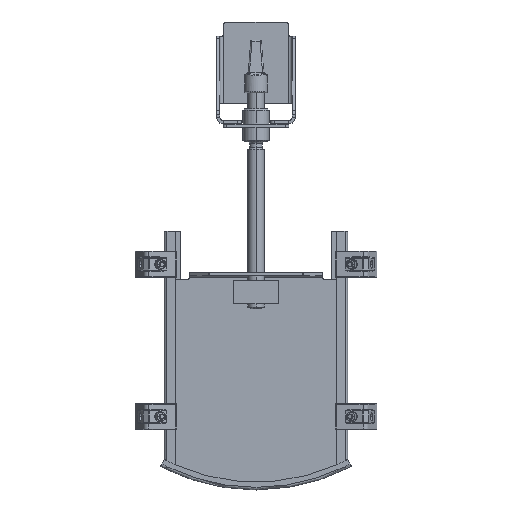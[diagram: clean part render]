
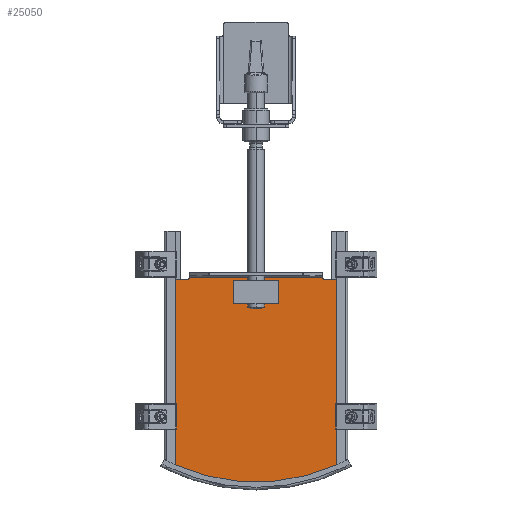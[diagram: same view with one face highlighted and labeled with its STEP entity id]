
A CAD part, top view. The second image highlights one B-rep face of the part: STEP entity #25050.
In plain terms, the highlighted planar face has unit normal (0, 0, 1).
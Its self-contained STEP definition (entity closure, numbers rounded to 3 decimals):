
#514 = LINE ( 'NONE', #22158, #922 ) ;
#640 = ORIENTED_EDGE ( 'NONE', *, *, #16587, .F. ) ;
#922 = VECTOR ( 'NONE', #33166, 1000. ) ;
#925 = CARTESIAN_POINT ( 'NONE',  ( -34., 307.5, 33. ) ) ;
#1392 = ORIENTED_EDGE ( 'NONE', *, *, #16591, .F. ) ;
#2145 = DIRECTION ( 'NONE',  ( 0., 1., 0. ) ) ;
#2159 = EDGE_CURVE ( 'NONE', #19831, #8006, #9249, .T. ) ;
#2605 = VERTEX_POINT ( 'NONE', #6995 ) ;
#3457 = LINE ( 'NONE', #20177, #16869 ) ;
#3532 = CARTESIAN_POINT ( 'NONE',  ( 122.995, 310., 33. ) ) ;
#3737 = CARTESIAN_POINT ( 'NONE',  ( 104., 310., 33. ) ) ;
#3943 = ORIENTED_EDGE ( 'NONE', *, *, #29161, .T. ) ;
#4023 = DIRECTION ( 'NONE',  ( 1., 0., 0. ) ) ;
#4092 = LINE ( 'NONE', #20980, #21663 ) ;
#4554 = VERTEX_POINT ( 'NONE', #21479 ) ;
#4582 = DIRECTION ( 'NONE',  ( 1., 0., 0. ) ) ;
#5391 = CARTESIAN_POINT ( 'NONE',  ( -122.995, 310., 33. ) ) ;
#5437 = CARTESIAN_POINT ( 'NONE',  ( 34., 307.5, 33. ) ) ;
#5519 = EDGE_CURVE ( 'NONE', #18808, #2605, #26608, .T. ) ;
#5643 = VERTEX_POINT ( 'NONE', #6845 ) ;
#5727 = VECTOR ( 'NONE', #23132, 1000. ) ;
#5894 = ORIENTED_EDGE ( 'NONE', *, *, #25307, .F. ) ;
#6059 = VECTOR ( 'NONE', #17815, 1000. ) ;
#6845 = CARTESIAN_POINT ( 'NONE',  ( -104., 310., 33. ) ) ;
#6995 = CARTESIAN_POINT ( 'NONE',  ( 102., 312., 33. ) ) ;
#7099 = AXIS2_PLACEMENT_3D ( 'NONE', #12503, #9800, #4582 ) ;
#7124 = ORIENTED_EDGE ( 'NONE', *, *, #31274, .T. ) ;
#8006 = VERTEX_POINT ( 'NONE', #32940 ) ;
#8361 = EDGE_CURVE ( 'NONE', #31074, #35464, #17823, .T. ) ;
#8366 = LINE ( 'NONE', #13765, #13551 ) ;
#8933 = ORIENTED_EDGE ( 'NONE', *, *, #2159, .F. ) ;
#9249 = LINE ( 'NONE', #30896, #5727 ) ;
#9800 = DIRECTION ( 'NONE',  ( 0., 0., -1. ) ) ;
#10900 = EDGE_CURVE ( 'NONE', #8006, #26299, #3457, .T. ) ;
#12503 = CARTESIAN_POINT ( 'NONE',  ( 104., 312., 33. ) ) ;
#12617 = AXIS2_PLACEMENT_3D ( 'NONE', #20361, #30846, #28292 ) ;
#13551 = VECTOR ( 'NONE', #24574, 1000. ) ;
#13567 = CARTESIAN_POINT ( 'NONE',  ( -102., 312., 33. ) ) ;
#13765 = CARTESIAN_POINT ( 'NONE',  ( -123.172, 310., 33. ) ) ;
#13792 = DIRECTION ( 'NONE',  ( 1., 0., 0. ) ) ;
#15364 = ORIENTED_EDGE ( 'NONE', *, *, #8361, .T. ) ;
#15622 = EDGE_CURVE ( 'NONE', #26299, #22739, #30099, .T. ) ;
#15759 = VECTOR ( 'NONE', #2145, 1000. ) ;
#15888 = CIRCLE ( 'NONE', #21038, 2. ) ;
#16587 = EDGE_CURVE ( 'NONE', #29601, #4554, #23453, .T. ) ;
#16591 = EDGE_CURVE ( 'NONE', #22739, #19831, #17311, .T. ) ;
#16742 = ORIENTED_EDGE ( 'NONE', *, *, #15622, .F. ) ;
#16869 = VECTOR ( 'NONE', #20009, 1000. ) ;
#17311 = LINE ( 'NONE', #925, #22199 ) ;
#17557 = VERTEX_POINT ( 'NONE', #13567 ) ;
#17736 = EDGE_CURVE ( 'NONE', #17557, #2605, #514, .T. ) ;
#17815 = DIRECTION ( 'NONE',  ( 0., -1., 0. ) ) ;
#17823 = LINE ( 'NONE', #23797, #24565 ) ;
#18191 = EDGE_LOOP ( 'NONE', ( #8933, #1392, #16742, #20392 ) ) ;
#18808 = VERTEX_POINT ( 'NONE', #3737 ) ;
#18897 = CIRCLE ( 'NONE', #12617, 300. ) ;
#19574 = CARTESIAN_POINT ( 'NONE',  ( -34., 307.5, 33. ) ) ;
#19678 = FACE_OUTER_BOUND ( 'NONE', #20187, .T. ) ;
#19831 = VERTEX_POINT ( 'NONE', #19574 ) ;
#20009 = DIRECTION ( 'NONE',  ( 1., 0., 0. ) ) ;
#20038 = PLANE ( 'NONE',  #24099 ) ;
#20177 = CARTESIAN_POINT ( 'NONE',  ( -34., 272.5, 33. ) ) ;
#20187 = EDGE_LOOP ( 'NONE', ( #640, #7124, #31549, #25081, #29388, #3943, #15364, #5894 ) ) ;
#20361 = CARTESIAN_POINT ( 'NONE',  ( 0., 300., 33. ) ) ;
#20392 = ORIENTED_EDGE ( 'NONE', *, *, #10900, .F. ) ;
#20980 = CARTESIAN_POINT ( 'NONE',  ( 123.172, 310., 33. ) ) ;
#21038 = AXIS2_PLACEMENT_3D ( 'NONE', #24782, #30188, #13792 ) ;
#21479 = CARTESIAN_POINT ( 'NONE',  ( 122.995, 26.372, 33. ) ) ;
#21663 = VECTOR ( 'NONE', #28939, 1000. ) ;
#22158 = CARTESIAN_POINT ( 'NONE',  ( -130., 312., 33. ) ) ;
#22199 = VECTOR ( 'NONE', #28841, 1000. ) ;
#22739 = VERTEX_POINT ( 'NONE', #27164 ) ;
#23132 = DIRECTION ( 'NONE',  ( 0., -1., 0. ) ) ;
#23453 = LINE ( 'NONE', #34309, #6059 ) ;
#23797 = CARTESIAN_POINT ( 'NONE',  ( -122.995, -12.001, 33. ) ) ;
#23928 = CARTESIAN_POINT ( 'NONE',  ( 34., 272.5, 33. ) ) ;
#24099 = AXIS2_PLACEMENT_3D ( 'NONE', #28159, #30888, #4023 ) ;
#24565 = VECTOR ( 'NONE', #28848, 1000. ) ;
#24574 = DIRECTION ( 'NONE',  ( -1., 0., 0. ) ) ;
#24782 = CARTESIAN_POINT ( 'NONE',  ( -104., 312., 33. ) ) ;
#25050 = ADVANCED_FACE ( 'NONE', ( #19678, #31615 ), #20038, .T. ) ;
#25081 = ORIENTED_EDGE ( 'NONE', *, *, #17736, .F. ) ;
#25307 = EDGE_CURVE ( 'NONE', #4554, #35464, #18897, .T. ) ;
#26299 = VERTEX_POINT ( 'NONE', #23928 ) ;
#26608 = CIRCLE ( 'NONE', #7099, 2. ) ;
#27164 = CARTESIAN_POINT ( 'NONE',  ( 34., 307.5, 33. ) ) ;
#27779 = CARTESIAN_POINT ( 'NONE',  ( -122.995, 26.372, 33. ) ) ;
#28159 = CARTESIAN_POINT ( 'NONE',  ( -130., 31.851, 33. ) ) ;
#28292 = DIRECTION ( 'NONE',  ( 1., 0., 0. ) ) ;
#28841 = DIRECTION ( 'NONE',  ( -1., 0., 0. ) ) ;
#28848 = DIRECTION ( 'NONE',  ( 0., -1., 0. ) ) ;
#28939 = DIRECTION ( 'NONE',  ( -1., 0., 0. ) ) ;
#29161 = EDGE_CURVE ( 'NONE', #5643, #31074, #8366, .T. ) ;
#29388 = ORIENTED_EDGE ( 'NONE', *, *, #31481, .T. ) ;
#29601 = VERTEX_POINT ( 'NONE', #3532 ) ;
#30099 = LINE ( 'NONE', #5437, #15759 ) ;
#30188 = DIRECTION ( 'NONE',  ( 0., 0., -1. ) ) ;
#30846 = DIRECTION ( 'NONE',  ( 0., 0., -1. ) ) ;
#30888 = DIRECTION ( 'NONE',  ( 0., 0., 1. ) ) ;
#30896 = CARTESIAN_POINT ( 'NONE',  ( -34., 307.5, 33. ) ) ;
#31074 = VERTEX_POINT ( 'NONE', #5391 ) ;
#31274 = EDGE_CURVE ( 'NONE', #29601, #18808, #4092, .T. ) ;
#31481 = EDGE_CURVE ( 'NONE', #17557, #5643, #15888, .T. ) ;
#31549 = ORIENTED_EDGE ( 'NONE', *, *, #5519, .T. ) ;
#31615 = FACE_BOUND ( 'NONE', #18191, .T. ) ;
#32940 = CARTESIAN_POINT ( 'NONE',  ( -34., 272.5, 33. ) ) ;
#33166 = DIRECTION ( 'NONE',  ( 1., 0., 0. ) ) ;
#34309 = CARTESIAN_POINT ( 'NONE',  ( 122.995, 31.851, 33. ) ) ;
#35464 = VERTEX_POINT ( 'NONE', #27779 ) ;
